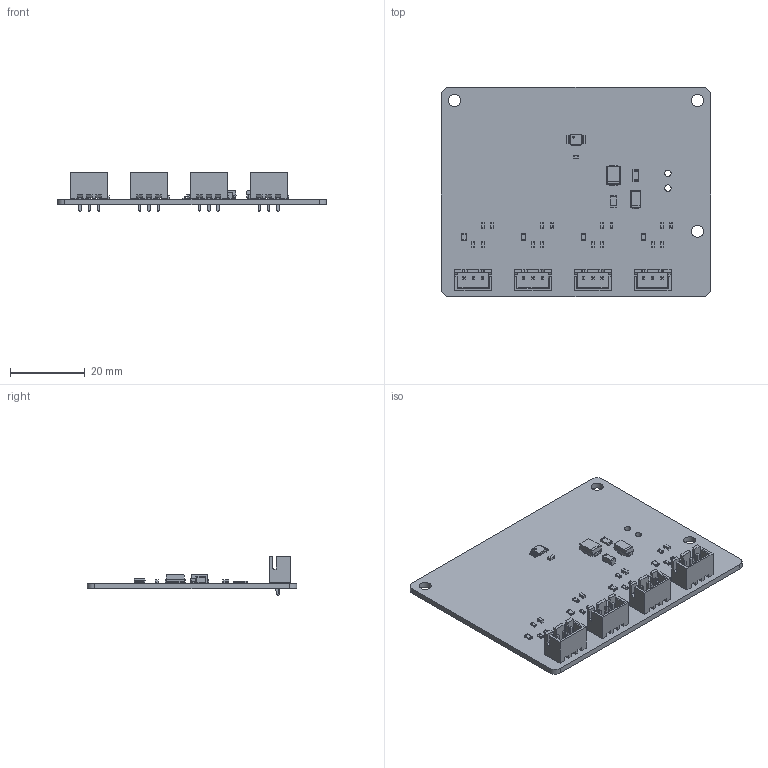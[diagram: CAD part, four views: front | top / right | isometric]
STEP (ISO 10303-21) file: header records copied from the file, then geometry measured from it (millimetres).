
FILE_DESCRIPTION(('KiCad electronic assembly'),'2;1');
FILE_NAME('AP_AI4.step','2026-10-06T22:30:29',('Pcbnew'),('Kicad'), 'Open CASCADE STEP processor 7.6','KiCad to STEP converter','Unknown' );
FILE_SCHEMA(('AUTOMOTIVE_DESIGN { 1 0 10303 214 1 1 1 1 }'));
Length unit declared in the file: millimetre
Products named in the file (11): AP_AI4 1; R_0805_2012Metric; JST_XH_B3B-XH-A_1x03_P2.50mm_Vertical; D_SMB; R_0603_1608Metric; C_0603_1608Metric; D_SMA; Fuse_1206_3216Metric; TSSOP-10_3x3mm_P0.5mm; C_1206_3216Metric; AP_AI4_PCB
Assembly tree (31 placements, depth 2):
  AP_AI4 1
    R_0805_2012Metric  x4
    JST_XH_B3B-XH-A_1x03_P2.50mm_Vertical  x4
    D_SMB
    R_0603_1608Metric  x12
    C_0603_1608Metric  x5
    D_SMA
    Fuse_1206_3216Metric
    TSSOP-10_3x3mm_P0.5mm
    C_1206_3216Metric
    AP_AI4_PCB
Bounding box: 72 x 56 x 10.4 mm (x, y, z)
Volume: 6932.1 mm3; surface area: 10899.9 mm2
Topology: 31 solids, 31 shells, 1373 faces, 3596 edges, 2324 vertices
Faces by surface type: plane 1025, cylinder 294, bspline 54
Full cylindrical faces by diameter (mm): 0.5 x1, 0.95 x12, 1.7 x2, 3.2 x3
Entity records: 16882 total; most frequent: CARTESIAN_POINT 3185, ORIENTED_EDGE 2858, DIRECTION 2645, EDGE_CURVE 1429, LINE 1109, VECTOR 1109, VERTEX_POINT 916, AXIS2_PLACEMENT_3D 768
